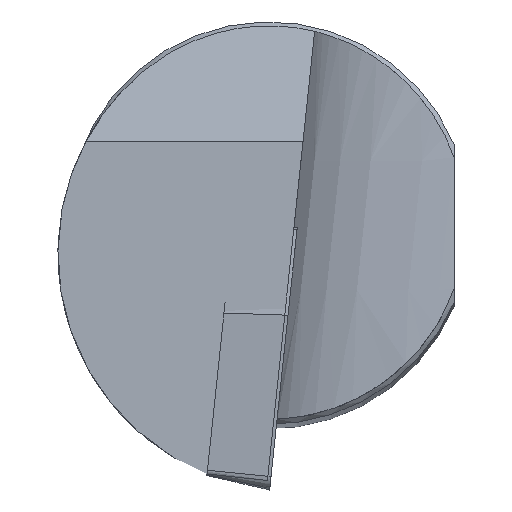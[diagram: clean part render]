
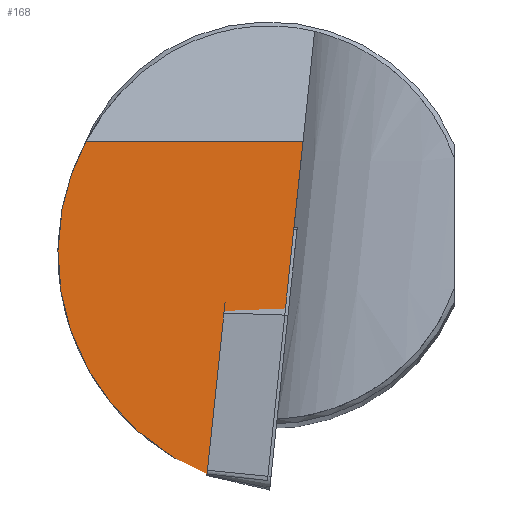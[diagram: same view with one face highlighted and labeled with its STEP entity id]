
A CAD part, top view. The second image highlights one B-rep face of the part: STEP entity #168.
In plain terms, the highlighted planar face has unit normal (0, 0.053, 0.999).
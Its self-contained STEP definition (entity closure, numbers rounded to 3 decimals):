
#105=B_SPLINE_CURVE_WITH_KNOTS('',3,(#749,#750,#751,#752),.UNSPECIFIED.,
 .F.,.F.,(4,4),(0.,1.),.UNSPECIFIED.);
#117=ELLIPSE('',#540,15.638,15.608);
#118=ELLIPSE('',#543,14.773,14.753);
#144=FACE_OUTER_BOUND('',#220,.T.);
#168=ADVANCED_FACE('',(#144),#190,.F.);
#190=PLANE('',#544);
#220=EDGE_LOOP('',(#337,#338,#339,#340,#341));
#252=LINE('',#754,#279);
#253=LINE('',#756,#280);
#279=VECTOR('',#620,1.);
#280=VECTOR('',#621,1.);
#337=ORIENTED_EDGE('',*,*,#475,.F.);
#338=ORIENTED_EDGE('',*,*,#476,.F.);
#339=ORIENTED_EDGE('',*,*,#477,.T.);
#340=ORIENTED_EDGE('',*,*,#478,.F.);
#341=ORIENTED_EDGE('',*,*,#471,.T.);
#425=VERTEX_POINT('',#729);
#426=VERTEX_POINT('',#730);
#429=VERTEX_POINT('',#753);
#430=VERTEX_POINT('',#755);
#431=VERTEX_POINT('',#757);
#471=EDGE_CURVE('',#425,#426,#117,.T.);
#475=EDGE_CURVE('',#429,#426,#105,.T.);
#476=EDGE_CURVE('',#430,#429,#252,.T.);
#477=EDGE_CURVE('',#430,#431,#253,.T.);
#478=EDGE_CURVE('',#425,#431,#118,.T.);
#540=AXIS2_PLACEMENT_3D('',#728,#614,#615);
#543=AXIS2_PLACEMENT_3D('',#758,#622,#623);
#544=AXIS2_PLACEMENT_3D('',#759,#624,#625);
#614=DIRECTION('',(0.,0.053,0.999));
#615=DIRECTION('',(0.,-0.999,0.053));
#620=DIRECTION('',(-0.104,-0.993,0.052));
#621=DIRECTION('',(-1.,0.,0.));
#622=DIRECTION('',(0.,-0.053,-0.999));
#623=DIRECTION('',(0.,-0.999,0.053));
#624=DIRECTION('',(0.,-0.053,-0.999));
#625=DIRECTION('',(0.,0.999,-0.053));
#728=CARTESIAN_POINT('',(0.,-0.514,-1.014));
#729=CARTESIAN_POINT('',(-3.847,-15.649,-0.216));
#730=CARTESIAN_POINT('',(-3.847,-15.649,-0.216));
#749=CARTESIAN_POINT('',(-0.099,-16.057,-0.195));
#750=CARTESIAN_POINT('',(-1.348,-15.921,-0.202));
#751=CARTESIAN_POINT('',(-2.597,-15.785,-0.209));
#752=CARTESIAN_POINT('',(-3.847,-15.649,-0.216));
#753=CARTESIAN_POINT('',(-0.099,-16.057,-0.195));
#754=CARTESIAN_POINT('',(-0.031,-15.414,-0.228));
#755=CARTESIAN_POINT('',(2.114,5.,-1.304));
#756=CARTESIAN_POINT('',(-16.25,5.,-1.304));
#757=CARTESIAN_POINT('',(-11.369,5.,-1.304));
#758=CARTESIAN_POINT('',(1.641,-1.955,-0.938));
#759=CARTESIAN_POINT('',(-16.25,-19.749,0.));
